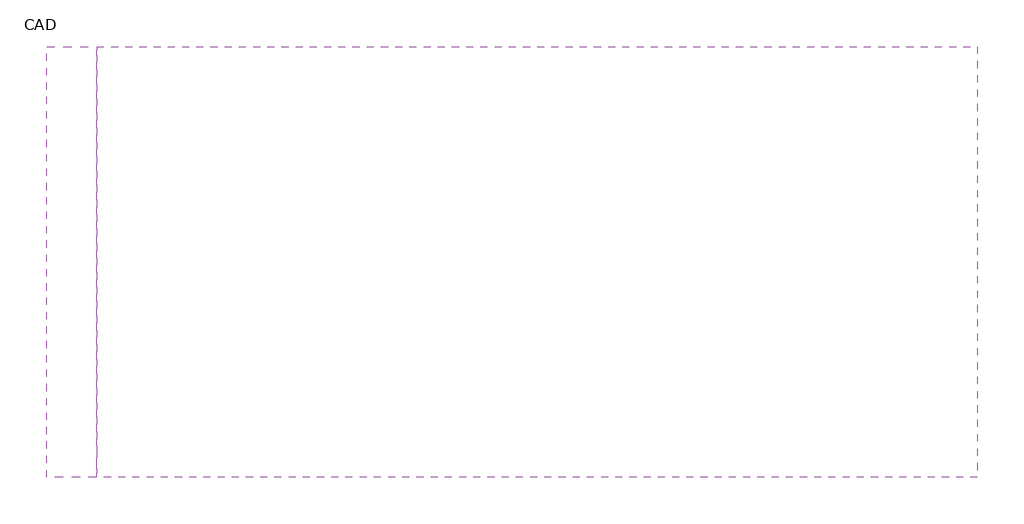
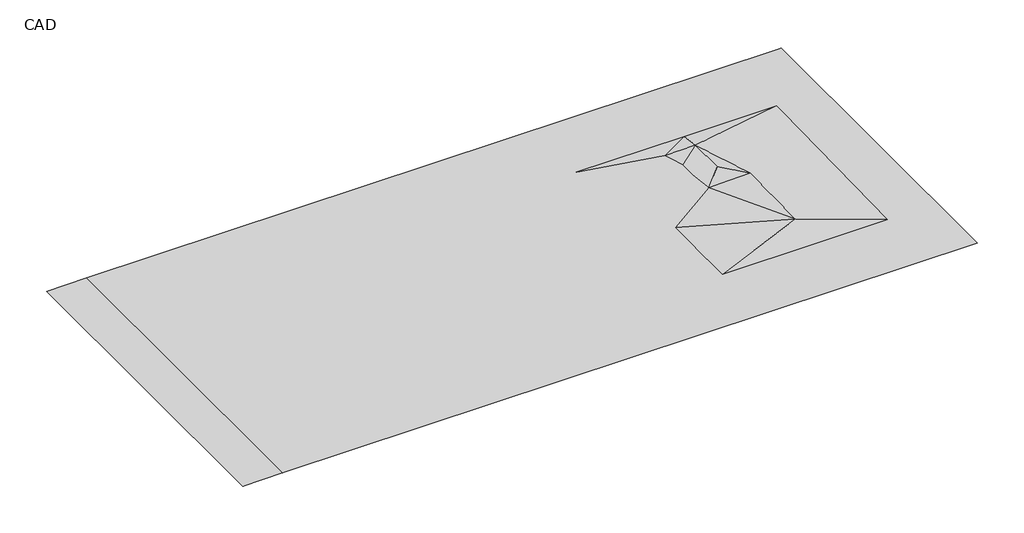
# One storey: 2 proxies.
"""IFC4 building model written with IfcOpenShell, lengths in millimetres."""

from ifc_helpers import new_model, si_unit, origin, place, context, project, spatial, triangles, element, save

model = new_model("IFC4")

# Units and contexts
model_context = context("Model", 3, world=origin())
ifc_project = project(units=[si_unit("LENGTHUNIT", "METRE", prefix="MILLI")], contexts=[model_context])

# Site, building, storey
site = spatial("IfcSite", under=ifc_project)
building = spatial("IfcBuilding", under=site)
storey = spatial("IfcBuildingStorey", under=building, Name="CAD", Elevation=-3048.0)

# Proxies
placement = place(None, origin())
element("IfcBuildingElementProxy", 1, Name="Building Element Proxy", at=placement, inside=storey, context=model_context, shape_type="Tessellation", body=[
    triangles([(30050.1564697, -12565.8725281, -762.0), (30050.1564697, 13740.4392059, -762.0), (-23737.6673584, 13740.4392059, -762.0), (-23737.6673584, 13213.7748413, -762.0), (-23737.6673584, -10657.898291, -762.0), (-23737.6673584, -12068.3540588, -762.0), (-23737.6673584, -12565.8725281, -762.0), (26191.2362, -7190.1832123, -762.0), (20857.2362, -7190.1832123, -762.0), (13389.6350372, -7190.1832123, -762.0), (6379.2356186, -7190.1832123, -762.0), (6379.2356186, 8049.8167877, -762.0), (10798.8350372, 8049.8167877, -762.0), (19253.0969055, 8049.8167877, -762.0), (26415.8969055, 8049.8167877, -762.0), (20845.4555237, 1977.8199738, -621.7919884), (20783.9499756, -4220.897303, -621.7919884), (13365.196994, -4147.2866798, -743.7120174), (13397.2671295, -915.1300426, -743.7120174), (13415.7904175, 951.6781025, -743.7120174), (13426.7013794, 2051.4304516, -743.7120174), (15172.1355377, 2034.1118866, -743.7120174), (17681.6870087, 2009.211517, -743.7120174), (19322.5845245, 3755.1111992, -633.9839767), (19322.5845245, 6650.7114899, -633.9839767), (17008.6094879, 6747.4061691, -743.7120174), (16412.114502, 3665.2431381, -743.7120174), (17495.8483521, 3799.27798, -743.7120174), (15819.4483521, 3799.27798, -743.7120174), (17506.0616821, 5207.6687576, -743.7120174)], [[6, 7, 11], [5, 6, 11], [11, 10, 18], [1, 10, 11], [18, 19, 11], [23, 22, 19], [17, 19, 18], [5, 11, 12], [11, 7, 1], [20, 11, 19], [3, 12, 2], [13, 12, 21], [3, 4, 12], [12, 13, 2], [4, 5, 12], [20, 22, 21], [22, 20, 19], [21, 29, 13], [29, 21, 22], [29, 22, 27], [20, 21, 12], [11, 20, 12], [13, 29, 26], [17, 18, 10], [19, 17, 23], [23, 27, 22], [23, 17, 16], [28, 27, 23], [16, 8, 15], [1, 8, 9], [17, 8, 16], [8, 17, 9], [8, 1, 15], [1, 9, 10], [9, 17, 10], [24, 23, 16], [26, 29, 30], [25, 26, 30], [26, 14, 13], [25, 14, 26], [30, 28, 24], [30, 27, 28], [24, 25, 30], [24, 16, 25], [2, 14, 15], [2, 15, 1], [16, 15, 25], [15, 14, 25], [28, 23, 24], [14, 2, 13], [30, 29, 27]], closed=False),
])
element("IfcBuildingElementProxy", 2, Name="Building Element Proxy", at=placement, inside=storey, context=model_context, shape_type="Tessellation", body=[
    triangles([(-26809.2473145, -12565.8725281, -762.0), (-23737.6673584, -12565.8725281, -762.0), (-23737.6673584, -12068.3540588, -762.0), (-23737.6673584, -10657.898291, -762.0), (-23737.6673584, 13213.7748413, -762.0), (-23737.6673584, 13740.4392059, -762.0), (-26809.2473145, 13740.4392059, -762.0)], [[7, 1, 4], [4, 1, 3], [7, 4, 5], [2, 3, 1], [5, 6, 7]], closed=False),
])

save(model, "model.ifc")
